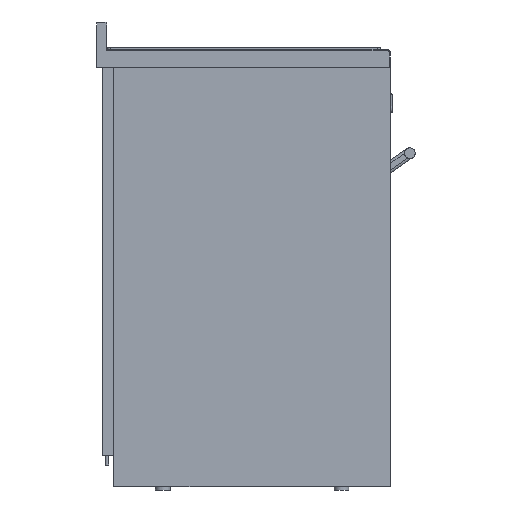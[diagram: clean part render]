
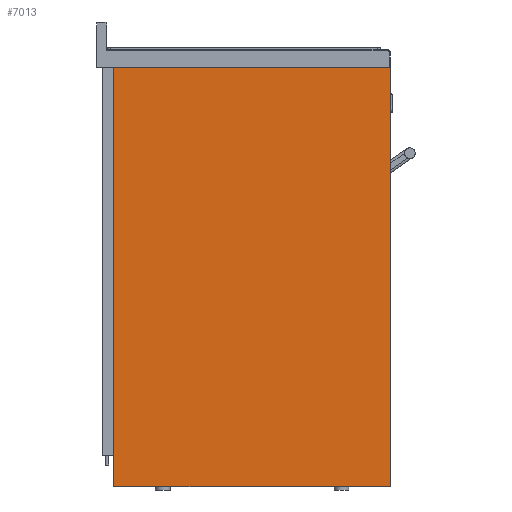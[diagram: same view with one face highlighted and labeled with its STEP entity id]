
A CAD part, left-side view. The second image highlights one B-rep face of the part: STEP entity #7013.
In plain terms, the highlighted planar face has unit normal (-1, 0, 0).
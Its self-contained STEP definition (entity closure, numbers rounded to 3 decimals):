
#872=LINE('',#30642,#2685);
#875=LINE('',#30648,#2688);
#878=LINE('',#30658,#2691);
#881=LINE('',#30663,#2694);
#2685=VECTOR('',#24171,1.);
#2688=VECTOR('',#24176,1.);
#2691=VECTOR('',#24185,1.);
#2694=VECTOR('',#24190,1.);
#5186=FACE_OUTER_BOUND('',#9071,.T.);
#6312=PLANE('',#21850);
#7013=ADVANCED_FACE('',(#5186),#6312,.F.);
#9071=EDGE_LOOP('',(#10670,#10671,#10672,#10673));
#10670=ORIENTED_EDGE('',*,*,#18332,.F.);
#10671=ORIENTED_EDGE('',*,*,#18343,.F.);
#10672=ORIENTED_EDGE('',*,*,#18340,.F.);
#10673=ORIENTED_EDGE('',*,*,#18335,.F.);
#16314=VERTEX_POINT('',#30641);
#16315=VERTEX_POINT('',#30643);
#16317=VERTEX_POINT('',#30649);
#16321=VERTEX_POINT('',#30659);
#18332=EDGE_CURVE('',#16314,#16315,#872,.T.);
#18335=EDGE_CURVE('',#16315,#16317,#875,.T.);
#18340=EDGE_CURVE('',#16317,#16321,#878,.T.);
#18343=EDGE_CURVE('',#16321,#16314,#881,.T.);
#21850=AXIS2_PLACEMENT_3D('',#30665,#24193,#24194);
#24171=DIRECTION('',(0.,-1.,0.));
#24176=DIRECTION('',(0.,0.,-1.));
#24185=DIRECTION('',(0.,1.,0.));
#24190=DIRECTION('',(0.,0.,1.));
#24193=DIRECTION('',(1.,0.,0.));
#24194=DIRECTION('',(0.,1.,0.));
#30641=CARTESIAN_POINT('',(-500.,262.5,822.));
#30642=CARTESIAN_POINT('',(-500.,262.5,822.));
#30643=CARTESIAN_POINT('',(-500.,-302.5,822.));
#30648=CARTESIAN_POINT('',(-500.,-302.5,822.));
#30649=CARTESIAN_POINT('',(-500.,-302.5,-34.));
#30658=CARTESIAN_POINT('',(-500.,-302.5,-34.));
#30659=CARTESIAN_POINT('',(-500.,262.5,-34.));
#30663=CARTESIAN_POINT('',(-500.,262.5,-34.));
#30665=CARTESIAN_POINT('',(-500.,-302.5,822.));
